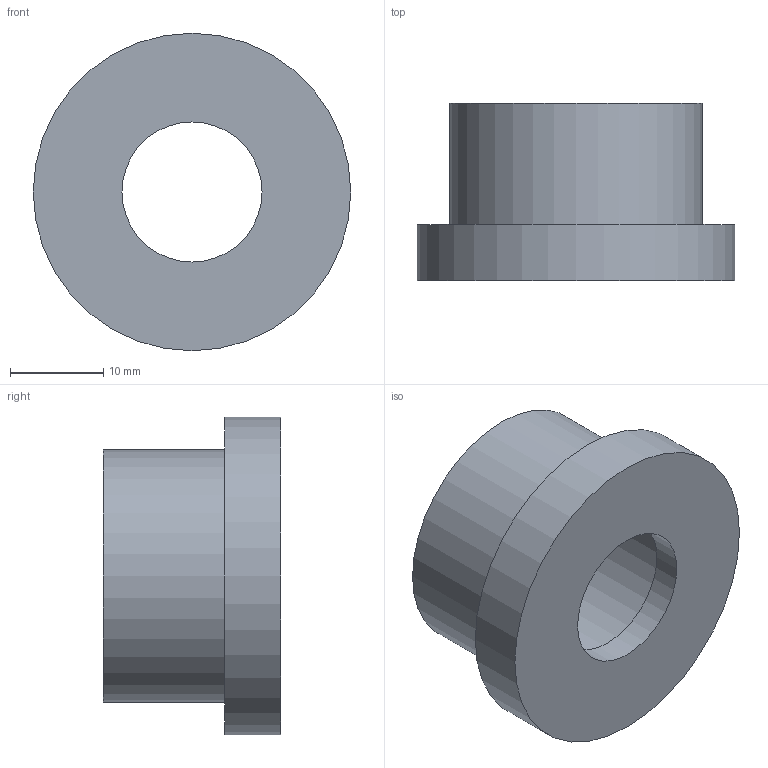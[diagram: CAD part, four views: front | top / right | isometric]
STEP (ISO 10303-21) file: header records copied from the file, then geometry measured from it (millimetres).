
FILE_DESCRIPTION(/* description */ ('PVC collare rigato incollaggio metrico'),/* implementation_level */ '2;1');
FILE_NAME(/* name */ 'C:\Users\POLYPIPE\Desktop\DATASET INVENTOR\LIBRERIA EFFAST\RACCORDI 3DxWEB\RDR\3D_RDRQRD\3D_RDRQRD0200.stp',/* time_stamp */ '2018-01-19T15:25:01+01:00',/* author */ ('POLYPIPE'),/* organization */ ('Polypipe Italia s.r.l.'),/* preprocessor_version */ 'ST-DEVELOPER v16.1',/* originating_system */ 'Autodesk Inventor 2016',/* authorisation */ '');
FILE_SCHEMA (('CONFIG_CONTROL_DESIGN'));
Length unit declared in the file: millimetre
Products named in the file (1): 3D_RDRQRD
Bounding box: 34 x 19 x 34 mm (x, y, z)
Volume: 7334 mm3; surface area: 4352.7 mm2
Topology: 1 solids, 1 shells, 8 faces, 12 edges, 8 vertices
Faces by surface type: plane 4, cylinder 4
Full cylindrical faces by diameter (mm): 15 x1, 20 x1, 27 x1, 34 x1
Entity records: 192 total; most frequent: DIRECTION 34, CARTESIAN_POINT 25, AXIS2_PLACEMENT_3D 17, EDGE_LOOP 16, ORIENTED_EDGE 16, FACE_BOUND 8, FACE_OUTER_BOUND 8, CIRCLE 8
